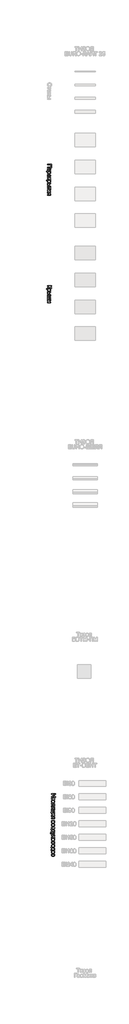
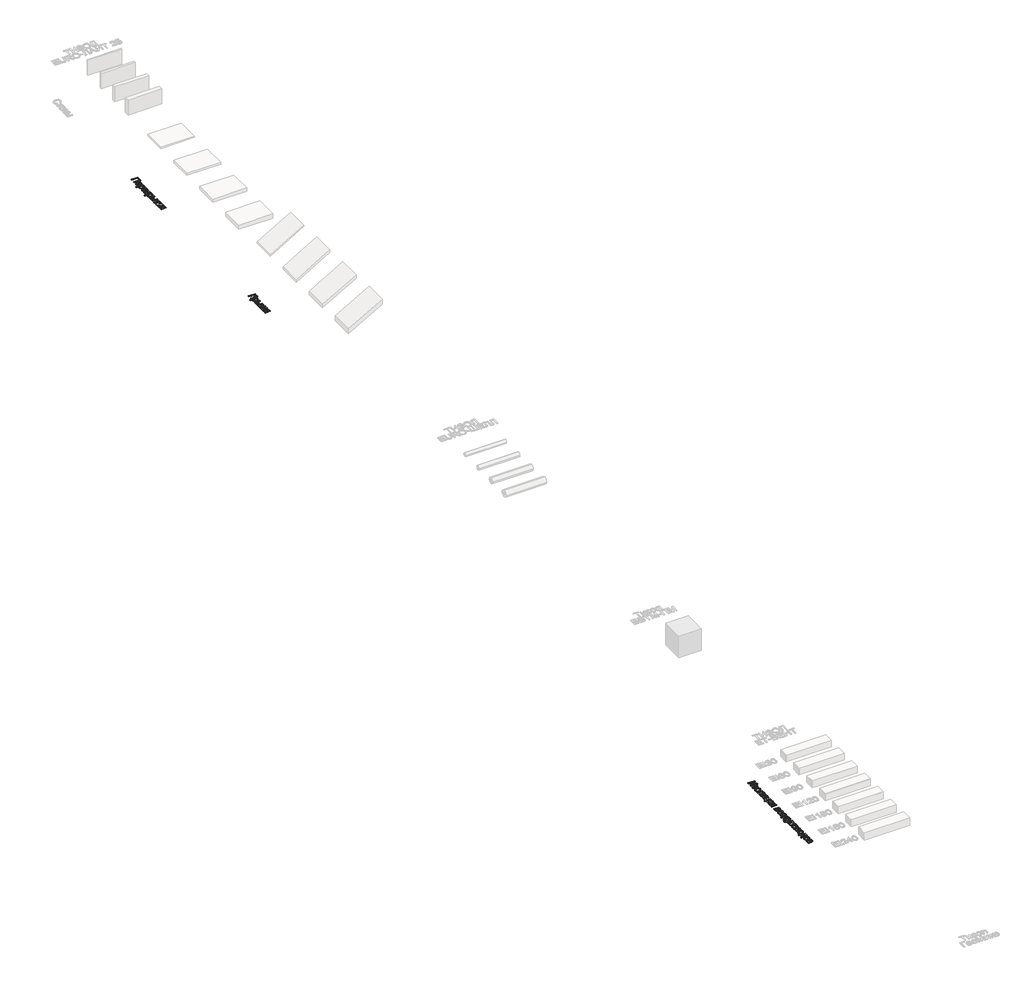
# One storey, part 8 of 35: 3 proxies.
"""IFC4 building model written with IfcOpenShell, lengths in millimetres."""

from ifc_helpers import new_model, si_unit, origin, origin_with_axes, place, context, project, spatial, polyline, outline, extrude, element, save

model = new_model("IFC4")

# Units and contexts
model_context = context("Model", 3, world=origin())
ifc_project = project(units=[si_unit("LENGTHUNIT", "METRE", prefix="MILLI")], contexts=[model_context])

# Site, building, storey
site = spatial("IfcSite", under=ifc_project)
building = spatial("IfcBuilding", under=site)
storey = spatial("IfcBuildingStorey", under=building, Name="Этаж 01", Elevation=0.0)

# Proxies
placement = place(None, origin())
element("IfcBuildingElementProxy", 1, Name="600 мм Arial", ObjectType="600 мм Arial", at=placement, inside=storey, context=model_context, shape_type="SweptSolid", body=[
    extrude(outline(polyline([(-526.5124295, -3136.6767763), (-526.5124295, -3372.1212533), (-827.8813599, -3372.1212533), (-827.8813599, -3334.450137), (-564.1835458, -3334.450137), (-564.1835458, -3174.3478927), (-827.8813599, -3174.3478927), (-827.8813599, -3136.6767763), (-526.5124295, -3136.6767763)])), origin_with_axes(), (0.0, 0.0, 1.0), 20.0),
    extrude(outline(polyline([(-761.9569064, -3588.2887136), (-766.6657959, -3625.2240659), (-794.4960689, -3611.9159348), (-815.2997957, -3590.6799466), (-828.267636, -3561.994348), (-832.5902495, -3526.3373856), (-830.7255476, -3502.9630834), (-825.131442, -3482.1363639), (-815.8079327, -3463.8572273), (-802.7550197, -3448.1256735), (-786.3359864, -3435.4751314), (-766.9141163, -3426.4390298), (-744.4894094, -3421.0173689), (-719.0618657, -3419.2101486), (-692.7720987, -3421.035763), (-669.6001315, -3426.5126062), (-649.5459642, -3435.6406783), (-632.6095969, -3448.4199791), (-619.1543129, -3464.1101462), (-609.5433958, -3481.970817), (-603.7768455, -3502.0019917), (-601.8546621, -3524.2036701), (-603.772247, -3545.6902778), (-609.5250017, -3565.121345), (-619.1129262, -3582.4968715), (-632.5360205, -3597.8168573), (-649.4355996, -3610.3225459), (-669.4529787, -3619.2551806), (-692.5881577, -3624.6147614), (-718.8411366, -3626.4012883), (-728.9946796, -3626.1805591), (-728.9946796, -3456.8812649), (-757.1928345, -3463.4019733), (-777.922985, -3478.5495145), (-790.6700961, -3500.410902), (-794.9191332, -3527.0731496), (-792.9509645, -3547.1227184), (-787.0464585, -3564.0085019), (-776.8377331, -3577.7305004), (-761.9569064, -3588.2887136)]), holes=[polyline([(-691.3235633, -3456.8812649), (-691.3235633, -3588.730172), (-671.4211474, -3583.6350064), (-657.1841142, -3573.6470102), (-643.9403623, -3551.6844551), (-639.5257784, -3524.0565173), (-643.0482485, -3498.6634626), (-653.6156588, -3477.6665977), (-670.0875751, -3463.0708795), (-691.3235633, -3456.8812649)])]), origin_with_axes(), (0.0, 0.0, 1.0), 20.0),
    extrude(outline(polyline([(-912.6413716, -3664.0724046), (-606.5635516, -3664.0724046), (-606.5635516, -3701.7435209), (-643.4989039, -3701.7435209), (-625.2795481, -3714.0307796), (-612.2657225, -3727.7895662), (-604.4574272, -3743.8292212), (-601.8546621, -3762.9590849), (-605.4966938, -3788.4349131), (-616.4227891, -3810.7101679), (-633.9707603, -3828.8467503), (-657.4784198, -3841.9065611), (-685.2351163, -3849.7976299), (-715.5301986, -3852.4279862), (-747.7474643, -3849.4573391), (-776.5618216, -3840.5453977), (-800.5109395, -3825.9772707), (-818.132487, -3806.0380666), (-828.9758089, -3782.8155156), (-832.5902495, -3758.3973482), (-830.1714253, -3741.0793033), (-822.914953, -3725.6190624), (-811.9612666, -3712.3845076), (-798.4508003, -3701.7435209), (-912.6413716, -3701.7435209), (-912.6413716, -3664.0724046)]), holes=[polyline([(-718.9882893, -3701.7435209), (-752.7598565, -3705.817814), (-776.3778806, -3718.0406933), (-790.28382, -3736.0761081), (-794.9191332, -3757.5880078), (-790.1182731, -3779.4493954), (-775.715693, -3797.9446627), (-751.2331462, -3810.5538181), (-716.1923862, -3814.7568699), (-682.60476, -3810.6549856), (-658.6556421, -3798.3493329), (-644.3082443, -3780.3415092), (-639.5257784, -3759.1331122), (-644.611747, -3737.8419417), (-659.8696527, -3719.1443393), (-684.821249, -3706.0937255), (-718.9882893, -3701.7435209)])]), origin_with_axes(), (0.0, 0.0, 1.0), 20.0),
    extrude(outline(polyline([(-761.9569064, -4049.7598884), (-766.6657959, -4086.6952407), (-794.4960689, -4073.3871095), (-815.2997957, -4052.1511213), (-828.267636, -4023.4655228), (-832.5902495, -3987.8085604), (-830.7255476, -3964.4342581), (-825.131442, -3943.6075387), (-815.8079327, -3925.328402), (-802.7550197, -3909.5968482), (-786.3359864, -3896.9463061), (-766.9141163, -3887.9102046), (-744.4894094, -3882.4885437), (-719.0618657, -3880.6813234), (-692.7720987, -3882.5069378), (-669.6001315, -3887.983781), (-649.5459642, -3897.111853), (-632.6095969, -3909.8911538), (-619.1543129, -3925.5813209), (-609.5433958, -3943.4419918), (-603.7768455, -3963.4731664), (-601.8546621, -3985.6748448), (-603.772247, -4007.1614526), (-609.5250017, -4026.5925197), (-619.1129262, -4043.9680462), (-632.5360205, -4059.2880321), (-649.4355996, -4071.7937206), (-669.4529787, -4080.7263553), (-692.5881577, -4086.0859361), (-718.8411366, -4087.8724631), (-728.9946796, -4087.6517339), (-728.9946796, -3918.3524397), (-757.1928345, -3924.8731481), (-777.922985, -3940.0206892), (-790.6700961, -3961.8820768), (-794.9191332, -3988.5443244), (-792.9509645, -4008.5938931), (-787.0464585, -4025.4796767), (-776.8377331, -4039.2016751), (-761.9569064, -4049.7598884)]), holes=[polyline([(-691.3235633, -3918.3524397), (-691.3235633, -4050.2013468), (-671.4211474, -4045.1061811), (-657.1841142, -4035.118185), (-643.9403623, -4013.1556299), (-639.5257784, -3985.527692), (-643.0482485, -3960.1346373), (-653.6156588, -3939.1377724), (-670.0875751, -3924.5420543), (-691.3235633, -3918.3524397)])]), origin_with_axes(), (0.0, 0.0, 1.0), 20.0),
    extrude(outline(polyline([(-606.5635516, -4125.5435794), (-606.5635516, -4163.2146957), (-700.7413424, -4163.2146957), (-699.0490852, -4178.5369808), (-693.9723137, -4188.4514006), (-680.7285619, -4197.2253861), (-654.5353638, -4209.1263687), (-620.5062792, -4226.3064579), (-609.4330312, -4241.4631961), (-606.5635516, -4269.0175575), (-606.5635516, -4276.2280446), (-644.4553971, -4276.2280446), (-644.2346679, -4266.0745015), (-648.2077935, -4247.6804018), (-673.00304, -4234.7309556), (-699.8216374, -4219.5374291), (-712.9550246, -4198.2370616), (-718.2571239, -4210.1748324), (-727.6151221, -4222.0022385), (-758.4988156, -4245.325957), (-827.8813599, -4285.6458237), (-827.8813599, -4242.8243594), (-759.9703436, -4203.3138332), (-731.2387598, -4183.4482054), (-726.0240325, -4174.159185), (-724.2857901, -4163.2146957), (-827.8813599, -4163.2146957), (-827.8813599, -4125.5435794), (-606.5635516, -4125.5435794)])), origin_with_axes(), (0.0, 0.0, 1.0), 20.0),
    extrude(outline(polyline([(-912.6413716, -4309.1902714), (-606.5635516, -4309.1902714), (-606.5635516, -4346.8613877), (-643.4989039, -4346.8613877), (-625.2795481, -4359.1486463), (-612.2657225, -4372.9074329), (-604.4574272, -4388.9470879), (-601.8546621, -4408.0769517), (-605.4966938, -4433.5527798), (-616.4227891, -4455.8280347), (-633.9707603, -4473.964617), (-657.4784198, -4487.0244278), (-685.2351163, -4494.9154966), (-715.5301986, -4497.5458529), (-747.7474643, -4494.5752058), (-776.5618216, -4485.6632645), (-800.5109395, -4471.0951375), (-818.132487, -4451.1559333), (-828.9758089, -4427.9333824), (-832.5902495, -4403.5152149), (-830.1714253, -4386.19717), (-822.914953, -4370.7369292), (-811.9612666, -4357.5023744), (-798.4508003, -4346.8613877), (-912.6413716, -4346.8613877), (-912.6413716, -4309.1902714)]), holes=[polyline([(-718.9882893, -4346.8613877), (-752.7598565, -4350.9356808), (-776.3778806, -4363.1585601), (-790.28382, -4381.1939749), (-794.9191332, -4402.7058745), (-790.1182731, -4424.5672621), (-775.715693, -4443.0625294), (-751.2331462, -4455.6716848), (-716.1923862, -4459.8747366), (-682.60476, -4455.7728524), (-658.6556421, -4443.4671996), (-644.3082443, -4425.4593759), (-639.5257784, -4404.2509789), (-644.611747, -4382.9598085), (-659.8696527, -4364.2622061), (-684.821249, -4351.2115923), (-718.9882893, -4346.8613877)])]), origin_with_axes(), (0.0, 0.0, 1.0), 20.0),
    extrude(outline(polyline([(-606.5635516, -4539.9258587), (-606.5635516, -4577.5969751), (-686.6146738, -4577.5969751), (-686.6146738, -4624.1708356), (-691.3327604, -4664.426323), (-697.2303686, -4680.6430212), (-705.4870201, -4694.2523557), (-715.8176064, -4705.0198019), (-727.9370189, -4712.7108348), (-741.8452576, -4717.3254546), (-757.5423224, -4718.8636612), (-784.4988756, -4713.7041162), (-807.24318, -4698.2254813), (-816.2723837, -4686.3635862), (-822.7218149, -4671.4160809), (-827.8813599, -4632.2642395), (-827.8813599, -4539.9258587), (-606.5635516, -4539.9258587)]), holes=[polyline([(-790.2102436, -4577.5969751), (-790.2102436, -4616.2981609), (-788.2328779, -4646.2989377), (-782.3007807, -4666.2565359), (-772.1748288, -4677.4585426), (-757.6158988, -4681.1925449), (-745.3102461, -4678.4242329), (-734.4393331, -4670.1192968), (-726.8241758, -4652.3597935), (-724.2857901, -4621.2277797), (-724.2857901, -4577.5969751), (-790.2102436, -4577.5969751)])]), origin_with_axes(), (0.0, 0.0, 1.0), 20.0),
    extrude(outline(polyline([(-606.5635516, -4747.1169984), (-606.5635516, -4784.7881147), (-827.8813599, -4784.7881147), (-827.8813599, -4747.1169984), (-606.5635516, -4747.1169984)])), origin_with_axes(), (0.0, 0.0, 1.0), 20.0),
    extrude(outline(polyline([(-606.5635516, -4822.459231), (-606.5635516, -5001.3970335), (-644.2346679, -5001.3970335), (-644.2346679, -4930.7636904), (-827.8813599, -4930.7636904), (-827.8813599, -4893.0925741), (-644.2346679, -4893.0925741), (-644.2346679, -4822.459231), (-606.5635516, -4822.459231)])), origin_with_axes(), (0.0, 0.0, 1.0), 20.0),
    extrude(outline(polyline([(-606.5635516, -5034.3592603), (-606.5635516, -5072.0303766), (-775.347811, -5072.0303766), (-606.5635516, -5164.5894866), (-606.5635516, -5213.2970627), (-827.8813599, -5213.2970627), (-827.8813599, -5175.6259464), (-660.1271701, -5175.6259464), (-827.8813599, -5083.6554476), (-827.8813599, -5034.3592603), (-606.5635516, -5034.3592603)])), origin_with_axes(), (0.0, 0.0, 1.0), 20.0),
    extrude(outline(polyline([(-606.5635516, -5439.3237606), (-827.8813599, -5439.3237606), (-827.8813599, -5401.6526443), (-743.1213482, -5401.6526443), (-743.1213482, -5381.1248289), (-747.9038142, -5353.1657973), (-758.3332687, -5342.0005787), (-780.0567005, -5326.8990228), (-827.8813599, -5296.879852), (-827.8813599, -5253.3226238), (-767.4015599, -5291.1408929), (-745.6965222, -5307.8427355), (-736.0580139, -5323.2202029), (-728.1669451, -5297.4684632), (-713.1757538, -5279.3686691), (-693.2365497, -5268.663303), (-670.5014424, -5265.0948476), (-644.7129145, -5269.9692841), (-624.2954638, -5284.5925934), (-610.9965297, -5308.4497408), (-606.5635516, -5341.0256914), (-606.5635516, -5439.3237606)]), holes=[polyline([(-644.2346679, -5401.6526443), (-644.2346679, -5351.9885749), (-646.4143688, -5326.3380028), (-652.9534712, -5311.7790728), (-662.4172355, -5305.0192412), (-673.3709219, -5302.7659639), (-687.7275168, -5306.086099), (-697.6879218, -5316.046504), (-703.5096544, -5334.4498008), (-705.4502319, -5363.0986112), (-705.4502319, -5401.6526443), (-644.2346679, -5401.6526443)])]), origin_with_axes(), (0.0, 0.0, 1.0), 20.0),
])
element("IfcBuildingElementProxy", 2, Name="600 мм Arial", ObjectType="600 мм Arial", at=placement, inside=storey, context=model_context, shape_type="SweptSolid", body=[
    extrude(outline(polyline([(-526.5124295, -12145.2368465), (-526.5124295, -12182.9079628), (-658.3613365, -12182.9079628), (-655.868936, -12208.4113821), (-648.3917345, -12225.0304512), (-630.7977781, -12238.4673411), (-597.9551129, -12254.4242226), (-555.8326245, -12275.2095554), (-544.4190856, -12285.2343397), (-534.9737154, -12298.7540031), (-528.6277509, -12314.8028551), (-526.5124295, -12332.4152056), (-526.9538879, -12357.1368757), (-564.6250042, -12357.1368757), (-564.404275, -12348.8227426), (-564.1835458, -12340.5086095), (-566.44602, -12323.2549439), (-573.2334429, -12311.0780499), (-587.4888702, -12300.593413), (-612.0082052, -12288.7108246), (-642.5424108, -12274.1335005), (-659.2442533, -12262.0393799), (-674.8424499, -12236.0301229), (-681.0504586, -12250.6212425), (-691.8753863, -12265.1111946), (-727.3759988, -12293.7875961), (-827.8813599, -12357.1368757), (-827.8813599, -12313.4324947), (-742.9741954, -12259.8688762), (-715.7417307, -12239.184711), (-698.644415, -12222.1609717), (-689.6221091, -12204.7509562), (-686.6146738, -12182.9079628), (-827.8813599, -12182.9079628), (-827.8813599, -12145.2368465), (-526.5124295, -12145.2368465)])), origin_with_axes(), (0.0, 0.0, 1.0), 20.0),
    extrude(outline(polyline([(-912.6413716, -12385.3902129), (-606.5635516, -12385.3902129), (-606.5635516, -12423.0613292), (-643.4989039, -12423.0613292), (-625.2795481, -12435.3485879), (-612.2657225, -12449.1073745), (-604.4574272, -12465.1470295), (-601.8546621, -12484.2768932), (-605.4966938, -12509.7527214), (-616.4227891, -12532.0279762), (-633.9707603, -12550.1645586), (-657.4784198, -12563.2243694), (-685.2351163, -12571.1154382), (-715.5301986, -12573.7457945), (-747.7474643, -12570.7751473), (-776.5618216, -12561.863206), (-800.5109395, -12547.295079), (-818.132487, -12527.3558749), (-828.9758089, -12504.1333239), (-832.5902495, -12479.7151565), (-830.1714253, -12462.3971116), (-822.914953, -12446.9368707), (-811.9612666, -12433.7023159), (-798.4508003, -12423.0613292), (-912.6413716, -12423.0613292), (-912.6413716, -12385.3902129)]), holes=[polyline([(-718.9882893, -12423.0613292), (-752.7598565, -12427.1356223), (-776.3778806, -12439.3585016), (-790.28382, -12457.3939164), (-794.9191332, -12478.9058161), (-790.1182731, -12500.7672037), (-775.715693, -12519.262471), (-751.2331462, -12531.8716264), (-716.1923862, -12536.0746782), (-682.60476, -12531.9727939), (-658.6556421, -12519.6671412), (-644.3082443, -12501.6593175), (-639.5257784, -12480.4509205), (-644.611747, -12459.15975), (-659.8696527, -12440.4621476), (-684.821249, -12427.4115338), (-718.9882893, -12423.0613292)])]), origin_with_axes(), (0.0, 0.0, 1.0), 20.0),
    extrude(outline(polyline([(-606.5635516, -12616.1258003), (-606.5635516, -12653.7969166), (-686.6146738, -12653.7969166), (-686.6146738, -12700.3707772), (-691.3327604, -12740.6262645), (-697.2303686, -12756.8429627), (-705.4870201, -12770.4522973), (-715.8176064, -12781.2197434), (-727.9370189, -12788.9107764), (-741.8452576, -12793.5253962), (-757.5423224, -12795.0636028), (-784.4988756, -12789.9040578), (-807.24318, -12774.4254228), (-816.2723837, -12762.5635277), (-822.7218149, -12747.6160224), (-827.8813599, -12708.4641811), (-827.8813599, -12616.1258003), (-606.5635516, -12616.1258003)]), holes=[polyline([(-790.2102436, -12653.7969166), (-790.2102436, -12692.4981025), (-788.2328779, -12722.4988792), (-782.3007807, -12742.4564774), (-772.1748288, -12753.6584842), (-757.6158988, -12757.3924865), (-745.3102461, -12754.6241744), (-734.4393331, -12746.3192384), (-726.8241758, -12728.5597351), (-724.2857901, -12697.4277212), (-724.2857901, -12653.7969166), (-790.2102436, -12653.7969166)])]), origin_with_axes(), (0.0, 0.0, 1.0), 20.0),
    extrude(outline(polyline([(-606.5635516, -12823.31694), (-606.5635516, -12860.9880563), (-827.8813599, -12860.9880563), (-827.8813599, -12823.31694), (-606.5635516, -12823.31694)])), origin_with_axes(), (0.0, 0.0, 1.0), 20.0),
    extrude(outline(polyline([(-606.5635516, -12917.4947308), (-606.5635516, -12955.1658471), (-790.2102436, -12955.1658471), (-790.2102436, -13039.9258587), (-606.5635516, -13039.9258587), (-606.5635516, -13077.5969751), (-790.2102436, -13077.5969751), (-790.2102436, -13162.3569867), (-606.5635516, -13162.3569867), (-606.5635516, -13200.028103), (-827.8813599, -13200.028103), (-827.8813599, -12917.4947308), (-606.5635516, -12917.4947308)])), origin_with_axes(), (0.0, 0.0, 1.0), 20.0),
    extrude(outline(polyline([(-606.5635516, -13251.825888), (-606.5635516, -13289.4970043), (-775.347811, -13289.4970043), (-606.5635516, -13382.0561143), (-606.5635516, -13430.7636904), (-827.8813599, -13430.7636904), (-827.8813599, -13393.0925741), (-660.1271701, -13393.0925741), (-827.8813599, -13301.1220753), (-827.8813599, -13251.825888), (-606.5635516, -13251.825888)])), origin_with_axes(), (0.0, 0.0, 1.0), 20.0),
])
element("IfcBuildingElementProxy", 3, Name="600 мм Arial", ObjectType="600 мм Arial", at=placement, inside=storey, context=model_context, shape_type="SweptSolid", body=[
    extrude(outline(polyline([(-218.4204922, -49939.478852), (-218.4204922, -49977.1499683), (-457.1023307, -49977.1499683), (-218.4204922, -50134.8977678), (-218.4204922, -50174.9233289), (-519.7894227, -50174.9233289), (-519.7894227, -50137.2522126), (-281.7697718, -50137.2522126), (-519.7894227, -49979.8722951), (-519.7894227, -49939.478852), (-218.4204922, -49939.478852)])), origin_with_axes(), (0.0, 0.0, 1.0), 20.0),
    extrude(outline(polyline([(-420.9027424, -50287.9366778), (-383.2316261, -50287.9366778), (-381.7600981, -50317.661543), (-373.9242116, -50332.6711285), (-366.5757688, -50337.9686292), (-357.5534628, -50339.7344628), (-346.8388997, -50337.3708209), (-338.5339637, -50330.2798955), (-333.2088718, -50319.4549678), (-331.4338412, -50305.8893192), (-333.1996747, -50292.1765178), (-338.4971755, -50280.6894025), (-347.3263434, -50271.4279733), (-359.6871784, -50264.3922301), (-354.9782889, -50222.0122243), (-328.1964796, -50233.2510193), (-309.0666159, -50250.3391379), (-297.5886976, -50273.2765803), (-293.7627249, -50302.0633465), (-298.4256291, -50333.5540452), (-312.414342, -50357.3927985), (-332.877778, -50372.4023839), (-356.9648516, -50377.4055791), (-369.3256867, -50375.6259499), (-380.3621465, -50370.2870625), (-390.0742312, -50361.3889167), (-398.4619407, -50348.9315126), (-408.9281835, -50363.4720485), (-421.932812, -50373.8371237), (-437.5126145, -50380.0451324), (-455.7043791, -50382.1144686), (-483.4334845, -50376.8629531), (-505.4052367, -50361.1084067), (-519.7250433, -50335.9176871), (-524.4983122, -50302.357652), (-520.0837283, -50269.533381), (-506.8399765, -50244.4162378), (-484.7670568, -50227.0062224), (-453.8649692, -50217.3033348), (-449.1560796, -50259.6833406), (-465.08537, -50266.029305), (-476.9679585, -50276.6794888), (-484.3623866, -50290.4014872), (-486.8271959, -50305.9628956), (-484.4635541, -50321.1196338), (-477.3726287, -50333.4804688), (-466.6028832, -50341.7026314), (-453.2027816, -50344.4433523), (-442.589386, -50342.7418981), (-433.4107302, -50337.6375354), (-422.8157288, -50323.1429848), (-420.6820132, -50295.2943177), (-420.9027424, -50287.9366778)])), origin_with_axes(), (0.0, 0.0, 1.0), 20.0),
    extrude(outline(polyline([(-409.1305185, -50419.7855849), (-380.4679126, -50421.8227315), (-355.7692351, -50427.9341711), (-335.0344862, -50438.1199038), (-318.2636657, -50452.3799297), (-307.5445041, -50466.7365245), (-299.8879601, -50482.5830415), (-295.2940337, -50499.9194805), (-293.7627249, -50518.7458416), (-295.6274267, -50539.5288751), (-301.2215323, -50558.3207472), (-310.5450416, -50575.1214581), (-323.5979547, -50589.9310077), (-339.938813, -50602.0182305), (-359.1261584, -50610.6519611), (-381.1599906, -50615.8321994), (-406.0403098, -50617.5589455), (-444.0977022, -50614.505525), (-473.0684093, -50605.3452633), (-494.76425, -50590.3448749), (-510.997043, -50569.7710743), (-521.1229949, -50545.3345128), (-524.4983122, -50518.7458416), (-522.6405082, -50497.6593055), (-517.0670959, -50478.6926894), (-507.7780756, -50461.8459933), (-494.773447, -50447.1192172), (-478.2739395, -50435.160753), (-458.5002823, -50426.618993), (-435.4524753, -50421.4939369), (-409.1305185, -50419.7855849)]), holes=[polyline([(-409.0569421, -50457.4567012), (-443.1504061, -50461.8161029), (-467.4398148, -50474.8943078), (-481.9803506, -50494.5759945), (-486.8271959, -50518.7458416), (-481.9527595, -50542.8053241), (-467.3294502, -50562.4502226), (-442.7181447, -50575.5284276), (-407.8797198, -50579.8878292), (-374.7795372, -50575.5008364), (-350.8212223, -50562.339858), (-336.2806865, -50542.6673683), (-331.4338412, -50518.7458416), (-336.2622924, -50494.5759945), (-350.7476459, -50474.8943078), (-374.9818723, -50461.8161029), (-409.0569421, -50457.4567012)])]), origin_with_axes(), (0.0, 0.0, 1.0), 20.0),
    extrude(outline(polyline([(-298.4716144, -50678.7745095), (-298.4716144, -50848.2945329), (-519.5686935, -50848.2945329), (-519.5686935, -50810.6234166), (-336.1427307, -50810.6234166), (-336.1427307, -50716.4456258), (-441.7248633, -50716.4456258), (-490.4324395, -50713.9072401), (-501.4597023, -50709.1523653), (-510.997043, -50699.9645124), (-517.5913278, -50686.0217848), (-519.7894227, -50667.0022857), (-517.8764363, -50636.3945037), (-482.1183064, -50636.3945037), (-482.1183064, -50653.243499), (-479.8006498, -50670.2764354), (-472.4430099, -50677.0822523), (-439.5911477, -50678.7745095), (-298.4716144, -50678.7745095)])), origin_with_axes(), (0.0, 0.0, 1.0), 20.0),
    extrude(outline(polyline([(-298.4716144, -51074.3212307), (-519.7894227, -51074.3212307), (-519.7894227, -51036.6501144), (-435.029411, -51036.6501144), (-435.029411, -51016.1222991), (-439.8118769, -50988.1632675), (-450.2413315, -50976.9980489), (-471.9647633, -50961.896493), (-519.7894227, -50931.8773222), (-519.7894227, -50888.320094), (-459.3096227, -50926.1383631), (-437.604585, -50942.8402057), (-427.9660767, -50958.217673), (-420.0750079, -50932.4659334), (-405.0838166, -50914.3661392), (-385.1446125, -50903.6607732), (-362.4095052, -50900.0923178), (-336.6209773, -50904.9667542), (-316.2035266, -50919.5900636), (-302.9045924, -50943.4472109), (-298.4716144, -50976.0231616), (-298.4716144, -51074.3212307)]), holes=[polyline([(-336.1427307, -51036.6501144), (-336.1427307, -50986.9860451), (-338.3224315, -50961.335473), (-344.861534, -50946.776543), (-354.3252983, -50940.0167113), (-365.2789847, -50937.7634341), (-379.6355796, -50941.0835691), (-389.5959846, -50951.0439741), (-395.4177172, -50969.447271), (-397.3582947, -50998.0960813), (-397.3582947, -51036.6501144), (-336.1427307, -51036.6501144)])]), origin_with_axes(), (0.0, 0.0, 1.0), 20.0),
    extrude(outline(polyline([(-298.4716144, -51130.8279052), (-298.4716144, -51168.4990215), (-482.1183064, -51168.4990215), (-482.1183064, -51276.8034809), (-298.4716144, -51276.8034809), (-298.4716144, -51314.4745972), (-482.1183064, -51314.4745972), (-482.1183064, -51338.0190449), (-581.0049867, -51338.0190449), (-581.0049867, -51300.3479286), (-519.7894227, -51300.3479286), (-519.7894227, -51130.8279052), (-298.4716144, -51130.8279052)])), origin_with_axes(), (0.0, 0.0, 1.0), 20.0),
    extrude(outline(polyline([(-298.4716144, -51370.9812716), (-298.4716144, -51408.6523879), (-467.2558738, -51408.6523879), (-298.4716144, -51501.2114979), (-298.4716144, -51549.9190741), (-519.7894227, -51549.9190741), (-519.7894227, -51512.2479578), (-352.0352329, -51512.2479578), (-519.7894227, -51420.277459), (-519.7894227, -51370.9812716), (-298.4716144, -51370.9812716)])), origin_with_axes(), (0.0, 0.0, 1.0), 20.0),
    extrude(outline(polyline([(-298.4716144, -51775.9457719), (-519.7894227, -51775.9457719), (-519.7894227, -51738.2746556), (-435.029411, -51738.2746556), (-435.029411, -51717.7468403), (-439.8118769, -51689.7878087), (-450.2413315, -51678.6225901), (-471.9647633, -51663.5210342), (-519.7894227, -51633.5018634), (-519.7894227, -51589.9446352), (-459.3096227, -51627.7629043), (-437.604585, -51644.4647469), (-427.9660767, -51659.8422143), (-420.0750079, -51634.0904746), (-405.0838166, -51615.9906804), (-385.1446125, -51605.2853144), (-362.4095052, -51601.716859), (-336.6209773, -51606.5912954), (-316.2035266, -51621.2146048), (-302.9045924, -51645.0717521), (-298.4716144, -51677.6477028), (-298.4716144, -51775.9457719)]), holes=[polyline([(-336.1427307, -51738.2746556), (-336.1427307, -51688.6105863), (-338.3224315, -51662.9600142), (-344.861534, -51648.4010842), (-354.3252983, -51641.6412525), (-365.2789847, -51639.3879753), (-379.6355796, -51642.7081103), (-389.5959846, -51652.6685153), (-395.4177172, -51671.0718122), (-397.3582947, -51699.7206225), (-397.3582947, -51738.2746556), (-336.1427307, -51738.2746556)])]), origin_with_axes(), (0.0, 0.0, 1.0), 20.0),
    extrude(outline(polyline([(-298.4716144, -51950.1746848), (-298.4716144, -52033.168863), (-299.7316102, -52059.8495047), (-303.5115977, -52078.6758658), (-310.6485084, -52092.5266229), (-321.9792739, -52104.2804526), (-336.7405389, -52112.3094772), (-354.1689485, -52114.9858187), (-368.2128436, -52113.3671379), (-380.3253583, -52108.5110956), (-390.5616748, -52100.3992976), (-398.9769755, -52089.0133498), (-406.8036649, -52102.9560774), (-419.3944262, -52114.3236311), (-435.7559779, -52121.8836061), (-454.8950387, -52124.4035978), (-483.6082285, -52118.0208451), (-503.8233441, -52102.8457128), (-515.797903, -52078.8230186), (-519.7894227, -52045.89758), (-519.7894227, -51950.1746848), (-298.4716144, -51950.1746848)]), holes=[polyline([(-482.1183064, -51987.8458012), (-482.1183064, -52034.0517797), (-480.4168522, -52059.2333023), (-475.3124895, -52075.033834), (-466.0326662, -52083.513514), (-451.80483, -52086.7324815), (-442.3778539, -52085.1229977), (-433.6682476, -52080.2945465), (-426.8532337, -52072.8817243), (-423.1100344, -52063.5191276), (-420.9027424, -52030.3729598), (-420.9027424, -51987.8458012), (-482.1183064, -51987.8458012)]), polyline([(-383.2316261, -51987.8458012), (-383.2316261, -52025.0754591), (-381.3186397, -52055.7936057), (-373.6666942, -52070.7296147), (-367.3391239, -52075.6684304), (-359.8343312, -52077.3147024), (-348.5955362, -52074.4268287), (-341.366655, -52065.7632077), (-337.4487118, -52050.1098288), (-336.1427307, -52026.2526814), (-336.1427307, -51987.8458012), (-383.2316261, -51987.8458012)])]), origin_with_axes(), (0.0, 0.0, 1.0), 20.0),
    extrude(outline(polyline([(-409.1305185, -52162.0747141), (-380.4679126, -52164.1118606), (-355.7692351, -52170.2233003), (-335.0344862, -52180.409033), (-318.2636657, -52194.6690588), (-307.5445041, -52209.0256537), (-299.8879601, -52224.8721706), (-295.2940337, -52242.2086097), (-293.7627249, -52261.0349708), (-295.6274267, -52281.8180042), (-301.2215323, -52300.6098764), (-310.5450416, -52317.4105873), (-323.5979547, -52332.2201368), (-339.938813, -52344.3073596), (-359.1261584, -52352.9410902), (-381.1599906, -52358.1213286), (-406.0403098, -52359.8480747), (-444.0977022, -52356.7946541), (-473.0684093, -52347.6343924), (-494.76425, -52332.6340041), (-510.997043, -52312.0602035), (-521.1229949, -52287.623642), (-524.4983122, -52261.0349708), (-522.6405082, -52239.9484347), (-517.0670959, -52220.9818185), (-507.7780756, -52204.1351224), (-494.773447, -52189.4083463), (-478.2739395, -52177.4498822), (-458.5002823, -52168.9081221), (-435.4524753, -52163.7830661), (-409.1305185, -52162.0747141)]), holes=[polyline([(-409.0569421, -52199.7458304), (-443.1504061, -52204.105232), (-467.4398148, -52217.1834369), (-481.9803506, -52236.8651237), (-486.8271959, -52261.0349708), (-481.9527595, -52285.0944533), (-467.3294502, -52304.7393518), (-442.7181447, -52317.8175567), (-407.8797198, -52322.1769584), (-374.7795372, -52317.7899656), (-350.8212223, -52304.6289872), (-336.2806865, -52284.9564975), (-331.4338412, -52261.0349708), (-336.2622924, -52236.8651237), (-350.7476459, -52217.1834369), (-374.9818723, -52204.105232), (-409.0569421, -52199.7458304)])]), origin_with_axes(), (0.0, 0.0, 1.0), 20.0),
    extrude(outline(polyline([(-420.9027424, -52454.0258654), (-383.2316261, -52454.0258654), (-381.7600981, -52483.7507306), (-373.9242116, -52498.7603161), (-366.5757688, -52504.0578168), (-357.5534628, -52505.8236504), (-346.8388997, -52503.4600085), (-338.5339637, -52496.3690831), (-333.2088718, -52485.5441554), (-331.4338412, -52471.9785068), (-333.1996747, -52458.2657054), (-338.4971755, -52446.7785901), (-347.3263434, -52437.5171609), (-359.6871784, -52430.4814177), (-354.9782889, -52388.1014119), (-328.1964796, -52399.3402069), (-309.0666159, -52416.4283255), (-297.5886976, -52439.3657679), (-293.7627249, -52468.1525341), (-298.4256291, -52499.6432328), (-312.414342, -52523.4819861), (-332.877778, -52538.4915715), (-356.9648516, -52543.4947667), (-369.3256867, -52541.7151375), (-380.3621465, -52536.3762501), (-390.0742312, -52527.4781043), (-398.4619407, -52515.0207002), (-408.9281835, -52529.5612361), (-421.932812, -52539.9263113), (-437.5126145, -52546.13432), (-455.7043791, -52548.2036562), (-483.4334845, -52542.9521407), (-505.4052367, -52527.1975943), (-519.7250433, -52502.0068747), (-524.4983122, -52468.4468396), (-520.0837283, -52435.6225686), (-506.8399765, -52410.5054254), (-484.7670568, -52393.09541), (-453.8649692, -52383.3925224), (-449.1560796, -52425.7725282), (-465.08537, -52432.1184926), (-476.9679585, -52442.7686764), (-484.3623866, -52456.4906748), (-486.8271959, -52472.0520832), (-484.4635541, -52487.2088214), (-477.3726287, -52499.5696564), (-466.6028832, -52507.791819), (-453.2027816, -52510.5325399), (-442.589386, -52508.8310857), (-433.4107302, -52503.726723), (-422.8157288, -52489.2321724), (-420.6820132, -52461.3835053), (-420.9027424, -52454.0258654)])), origin_with_axes(), (0.0, 0.0, 1.0), 20.0),
    extrude(outline(polyline([(-298.4716144, -52628.2547784), (-298.4716144, -52769.5214645), (-482.1183064, -52769.5214645), (-482.1183064, -52797.7748017), (-581.0049867, -52797.7748017), (-581.0049867, -52760.1036854), (-519.7894227, -52760.1036854), (-519.7894227, -52604.7103307), (-581.0049867, -52604.7103307), (-581.0049867, -52567.0392144), (-482.1183064, -52567.0392144), (-482.1183064, -52590.583662), (-451.1886276, -52607.6993719), (-410.2709527, -52619.6831279), (-359.3652817, -52626.53493), (-298.4716144, -52628.2547784)]), holes=[polyline([(-336.1427307, -52661.2170051), (-382.2659358, -52658.1267964), (-421.9696002, -52652.3878372), (-455.2537237, -52644.0001277), (-482.1183064, -52632.9636679), (-482.1183064, -52731.8503482), (-336.1427307, -52731.8503482), (-336.1427307, -52661.2170051)])]), origin_with_axes(), (0.0, 0.0, 1.0), 20.0),
    extrude(outline(polyline([(-604.5494344, -52840.1548076), (-568.2762697, -52835.445918), (-571.5872076, -52854.5757818), (-567.4301411, -52872.4548468), (-555.8418582, -52883.4177302), (-528.1035558, -52893.7184261), (-518.9800823, -52896.661482), (-298.4716144, -52816.6103599), (-298.4716144, -52856.3416154), (-421.3442008, -52898.7951976), (-470.4932353, -52913.5840538), (-427.0831599, -52928.37291), (-298.4716144, -52972.0037146), (-298.4716144, -53011.4406645), (-525.0869234, -52934.4061747), (-574.235958, -52914.3933942), (-589.9261251, -52904.1478806), (-600.797038, -52892.5412037), (-607.1430025, -52879.0583286), (-609.2583239, -52863.1842205), (-604.5494344, -52840.1548076)])), origin_with_axes(), (0.0, 0.0, 1.0), 20.0),
    extrude(outline(polyline([(-519.7894227, -53019.09261), (-408.5419074, -53099.5851906), (-298.4716144, -53023.8014996), (-298.4716144, -53069.1245614), (-351.4466217, -53105.6920317), (-376.4625974, -53122.7617563), (-356.0083584, -53137.5506125), (-298.4716144, -53179.1948543), (-298.4716144, -53224.5179161), (-408.5419074, -53144.9082524), (-519.7894227, -53221.5748602), (-519.7894227, -53176.2517984), (-452.908476, -53130.1193962), (-440.6947937, -53121.6581103), (-519.7894227, -53064.4156718), (-519.7894227, -53019.09261)])), origin_with_axes(), (0.0, 0.0, 1.0), 20.0),
    extrude(outline(polyline([(-409.1305185, -53245.1193079), (-380.4679126, -53247.1564544), (-355.7692351, -53253.2678941), (-335.0344862, -53263.4536268), (-318.2636657, -53277.7136526), (-307.5445041, -53292.0702475), (-299.8879601, -53307.9167644), (-295.2940337, -53325.2532035), (-293.7627249, -53344.0795646), (-295.6274267, -53364.862598), (-301.2215323, -53383.6544702), (-310.5450416, -53400.4551811), (-323.5979547, -53415.2647306), (-339.938813, -53427.3519534), (-359.1261584, -53435.985684), (-381.1599906, -53441.1659224), (-406.0403098, -53442.8926685), (-444.0977022, -53439.8392479), (-473.0684093, -53430.6789862), (-494.76425, -53415.6785979), (-510.997043, -53395.1047973), (-521.1229949, -53370.6682358), (-524.4983122, -53344.0795646), (-522.6405082, -53322.9930285), (-517.0670959, -53304.0264123), (-507.7780756, -53287.1797162), (-494.773447, -53272.4529401), (-478.2739395, -53260.494476), (-458.5002823, -53251.9527159), (-435.4524753, -53246.8276599), (-409.1305185, -53245.1193079)]), holes=[polyline([(-409.0569421, -53282.7904242), (-443.1504061, -53287.1498258), (-467.4398148, -53300.2280307), (-481.9803506, -53319.9097175), (-486.8271959, -53344.0795646), (-481.9527595, -53368.1390471), (-467.3294502, -53387.7839456), (-442.7181447, -53400.8621505), (-407.8797198, -53405.2215522), (-374.7795372, -53400.8345594), (-350.8212223, -53387.673581), (-336.2806865, -53368.0010913), (-331.4338412, -53344.0795646), (-336.2622924, -53319.9097175), (-350.7476459, -53300.2280307), (-374.9818723, -53287.1498258), (-409.0569421, -53282.7904242)])]), origin_with_axes(), (0.0, 0.0, 1.0), 20.0),
    extrude(outline(polyline([(-298.4716144, -53485.2726743), (-298.4716144, -53568.2668524), (-299.7316102, -53594.9474941), (-303.5115977, -53613.7738552), (-310.6485084, -53627.6246124), (-321.9792739, -53639.3784421), (-336.7405389, -53647.4074666), (-354.1689485, -53650.0838082), (-368.2128436, -53648.4651274), (-380.3253583, -53643.609085), (-390.5616748, -53635.497287), (-398.9769755, -53624.1113393), (-406.8036649, -53638.0540669), (-419.3944262, -53649.4216206), (-435.7559779, -53656.9815956), (-454.8950387, -53659.5015872), (-483.6082285, -53653.1188346), (-503.8233441, -53637.9437023), (-515.797903, -53613.921008), (-519.7894227, -53580.9955695), (-519.7894227, -53485.2726743), (-298.4716144, -53485.2726743)]), holes=[polyline([(-383.2316261, -53522.9437906), (-383.2316261, -53560.1734485), (-381.3186397, -53590.8915951), (-373.6666942, -53605.8276041), (-367.3391239, -53610.7664199), (-359.8343312, -53612.4126919), (-348.5955362, -53609.5248182), (-341.366655, -53600.8611972), (-337.4487118, -53585.2078183), (-336.1427307, -53561.3506709), (-336.1427307, -53522.9437906), (-383.2316261, -53522.9437906)]), polyline([(-482.1183064, -53522.9437906), (-482.1183064, -53569.1497692), (-480.4168522, -53594.3312918), (-475.3124895, -53610.1318235), (-466.0326662, -53618.6115035), (-451.80483, -53621.8304709), (-442.3778539, -53620.2209872), (-433.6682476, -53615.392536), (-426.8532337, -53607.9797138), (-423.1100344, -53598.617117), (-420.9027424, -53565.4709493), (-420.9027424, -53522.9437906), (-482.1183064, -53522.9437906)])]), origin_with_axes(), (0.0, 0.0, 1.0), 20.0),
    extrude(outline(polyline([(-409.1305185, -53697.1727035), (-380.4679126, -53699.2098501), (-355.7692351, -53705.3212897), (-335.0344862, -53715.5070225), (-318.2636657, -53729.7670483), (-307.5445041, -53744.1236432), (-299.8879601, -53759.9701601), (-295.2940337, -53777.3065991), (-293.7627249, -53796.1329602), (-295.6274267, -53816.9159937), (-301.2215323, -53835.7078659), (-310.5450416, -53852.5085767), (-323.5979547, -53867.3181263), (-339.938813, -53879.4053491), (-359.1261584, -53888.0390797), (-381.1599906, -53893.219318), (-406.0403098, -53894.9460641), (-444.0977022, -53891.8926436), (-473.0684093, -53882.7323819), (-494.76425, -53867.7319936), (-510.997043, -53847.158193), (-521.1229949, -53822.7216314), (-524.4983122, -53796.1329602), (-522.6405082, -53775.0464241), (-517.0670959, -53756.079808), (-507.7780756, -53739.2331119), (-494.773447, -53724.5063358), (-478.2739395, -53712.5478717), (-458.5002823, -53704.0061116), (-435.4524753, -53698.8810556), (-409.1305185, -53697.1727035)]), holes=[polyline([(-409.0569421, -53734.8438198), (-443.1504061, -53739.2032215), (-467.4398148, -53752.2814264), (-481.9803506, -53771.9631132), (-486.8271959, -53796.1329602), (-481.9527595, -53820.1924427), (-467.3294502, -53839.8373413), (-442.7181447, -53852.9155462), (-407.8797198, -53857.2749478), (-374.7795372, -53852.887955), (-350.8212223, -53839.7269767), (-336.2806865, -53820.054487), (-331.4338412, -53796.1329602), (-336.2622924, -53771.9631132), (-350.7476459, -53752.2814264), (-374.9818723, -53739.2032215), (-409.0569421, -53734.8438198)])]), origin_with_axes(), (0.0, 0.0, 1.0), 20.0),
    extrude(outline(polyline([(-298.4716144, -53970.2882968), (-298.4716144, -54111.5549829), (-482.1183064, -54111.5549829), (-482.1183064, -54139.8083201), (-581.0049867, -54139.8083201), (-581.0049867, -54102.1372038), (-519.7894227, -54102.1372038), (-519.7894227, -53946.7438491), (-581.0049867, -53946.7438491), (-581.0049867, -53909.0727328), (-482.1183064, -53909.0727328), (-482.1183064, -53932.6171805), (-451.1886276, -53949.7328903), (-410.2709527, -53961.7166463), (-359.3652817, -53968.5684484), (-298.4716144, -53970.2882968)]), holes=[polyline([(-336.1427307, -54003.2505235), (-382.2659358, -54000.1603148), (-421.9696002, -53994.4213556), (-455.2537237, -53986.0336462), (-482.1183064, -53974.9971863), (-482.1183064, -54073.8838666), (-336.1427307, -54073.8838666), (-336.1427307, -54003.2505235)])]), origin_with_axes(), (0.0, 0.0, 1.0), 20.0),
    extrude(outline(polyline([(-409.1305185, -54172.7705469), (-380.4679126, -54174.8076935), (-355.7692351, -54180.9191331), (-335.0344862, -54191.1048658), (-318.2636657, -54205.3648917), (-307.5445041, -54219.7214865), (-299.8879601, -54235.5680035), (-295.2940337, -54252.9044425), (-293.7627249, -54271.7308036), (-295.6274267, -54292.5138371), (-301.2215323, -54311.3057092), (-310.5450416, -54328.1064201), (-323.5979547, -54342.9159697), (-339.938813, -54355.0031925), (-359.1261584, -54363.6369231), (-381.1599906, -54368.8171614), (-406.0403098, -54370.5439075), (-444.0977022, -54367.490487), (-473.0684093, -54358.3302253), (-494.76425, -54343.3298369), (-510.997043, -54322.7560363), (-521.1229949, -54298.3194748), (-524.4983122, -54271.7308036), (-522.6405082, -54250.6442675), (-517.0670959, -54231.6776514), (-507.7780756, -54214.8309553), (-494.773447, -54200.1041791), (-478.2739395, -54188.145715), (-458.5002823, -54179.603955), (-435.4524753, -54174.4788989), (-409.1305185, -54172.7705469)]), holes=[polyline([(-409.0569421, -54210.4416632), (-443.1504061, -54214.8010649), (-467.4398148, -54227.8792698), (-481.9803506, -54247.5609565), (-486.8271959, -54271.7308036), (-481.9527595, -54295.7902861), (-467.3294502, -54315.4351846), (-442.7181447, -54328.5133896), (-407.8797198, -54332.8727912), (-374.7795372, -54328.4857984), (-350.8212223, -54315.32482), (-336.2806865, -54295.6523303), (-331.4338412, -54271.7308036), (-336.2622924, -54247.5609565), (-350.7476459, -54227.8792698), (-374.9818723, -54214.8010649), (-409.0569421, -54210.4416632)])]), origin_with_axes(), (0.0, 0.0, 1.0), 20.0),
    extrude(outline(polyline([(-298.4716144, -54412.9239134), (-298.4716144, -54495.9180915), (-299.7316102, -54522.5987332), (-303.5115977, -54541.4250943), (-310.6485084, -54555.2758514), (-321.9792739, -54567.0296811), (-336.7405389, -54575.0587057), (-354.1689485, -54577.7350472), (-368.2128436, -54576.1163664), (-380.3253583, -54571.2603241), (-390.5616748, -54563.1485261), (-398.9769755, -54551.7625783), (-406.8036649, -54565.705306), (-419.3944262, -54577.0728596), (-435.7559779, -54584.6328346), (-454.8950387, -54587.1528263), (-483.6082285, -54580.7700737), (-503.8233441, -54565.5949414), (-515.797903, -54541.5722471), (-519.7894227, -54508.6468085), (-519.7894227, -54412.9239134), (-298.4716144, -54412.9239134)]), holes=[polyline([(-383.2316261, -54450.5950297), (-383.2316261, -54487.8246876), (-381.3186397, -54518.5428342), (-373.6666942, -54533.4788432), (-367.3391239, -54538.417659), (-359.8343312, -54540.0639309), (-348.5955362, -54537.1760572), (-341.366655, -54528.5124362), (-337.4487118, -54512.8590573), (-336.1427307, -54489.00191), (-336.1427307, -54450.5950297), (-383.2316261, -54450.5950297)]), polyline([(-482.1183064, -54450.5950297), (-482.1183064, -54496.8010083), (-480.4168522, -54521.9825308), (-475.3124895, -54537.7830625), (-466.0326662, -54546.2627425), (-451.80483, -54549.48171), (-442.3778539, -54547.8722262), (-433.6682476, -54543.043775), (-426.8532337, -54535.6309528), (-423.1100344, -54526.2683561), (-420.9027424, -54493.1221883), (-420.9027424, -54450.5950297), (-482.1183064, -54450.5950297)])]), origin_with_axes(), (0.0, 0.0, 1.0), 20.0),
])

save(model, "model.ifc")
